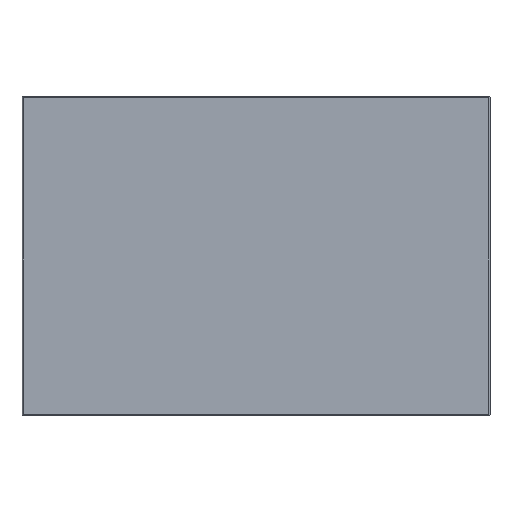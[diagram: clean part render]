
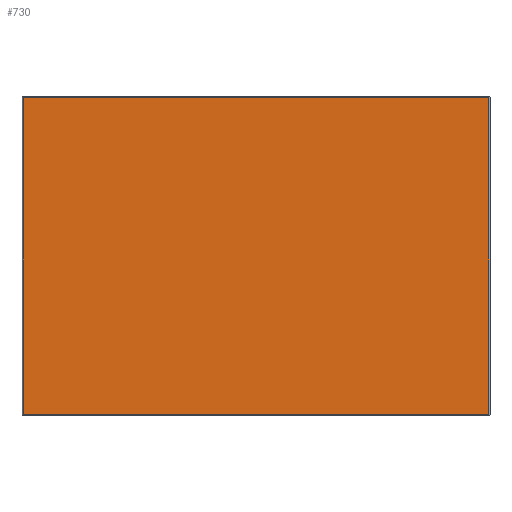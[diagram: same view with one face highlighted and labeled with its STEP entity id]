
A CAD part, top view. The second image highlights one B-rep face of the part: STEP entity #730.
In plain terms, the highlighted planar face has unit normal (0, 0, 1).
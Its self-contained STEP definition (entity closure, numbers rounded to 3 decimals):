
#314=DIRECTION('',(-1.,0.,0.));
#315=VECTOR('',#314,219.);
#316=CARTESIAN_POINT('',(109.5,74.5,0.));
#317=LINE('356',#316,#315);
#322=DIRECTION('',(0.,1.,0.));
#323=VECTOR('',#322,149.);
#324=CARTESIAN_POINT('',(109.5,-74.5,0.));
#325=LINE('363',#324,#323);
#329=DIRECTION('',(1.,0.,0.));
#330=VECTOR('',#329,219.);
#331=CARTESIAN_POINT('',(-109.5,-74.5,0.));
#332=LINE('361',#331,#330);
#336=DIRECTION('',(0.,-1.,0.));
#337=VECTOR('',#336,149.);
#338=CARTESIAN_POINT('',(-109.5,74.5,0.));
#339=LINE('359',#338,#337);
#651=CARTESIAN_POINT('',(109.5,74.5,0.));
#652=CARTESIAN_POINT('',(-109.5,74.5,0.));
#653=VERTEX_POINT('',#651);
#654=VERTEX_POINT('',#652);
#655=CARTESIAN_POINT('',(-109.5,-74.5,0.));
#656=VERTEX_POINT('',#655);
#657=CARTESIAN_POINT('',(109.5,-74.5,0.));
#658=VERTEX_POINT('',#657);
#715=CARTESIAN_POINT('',(0.,0.,0.));
#716=DIRECTION('',(0.,0.,1.));
#717=DIRECTION('',(1.,0.,0.));
#718=AXIS2_PLACEMENT_3D('',#715,#716,#717);
#719=PLANE('71',#718);
#721=ORIENTED_EDGE('356',*,*,#720,.F.);
#723=ORIENTED_EDGE('363',*,*,#722,.F.);
#725=ORIENTED_EDGE('361',*,*,#724,.F.);
#727=ORIENTED_EDGE('359',*,*,#726,.F.);
#728=EDGE_LOOP('71',(#721,#723,#725,#727));
#729=FACE_OUTER_BOUND('71',#728,.F.);
#730=ADVANCED_FACE('71',(#729),#719,.T.);
#720=EDGE_CURVE('356',#653,#654,#317,.T.);
#722=EDGE_CURVE('363',#658,#653,#325,.T.);
#724=EDGE_CURVE('361',#656,#658,#332,.T.);
#726=EDGE_CURVE('359',#654,#656,#339,.T.);
